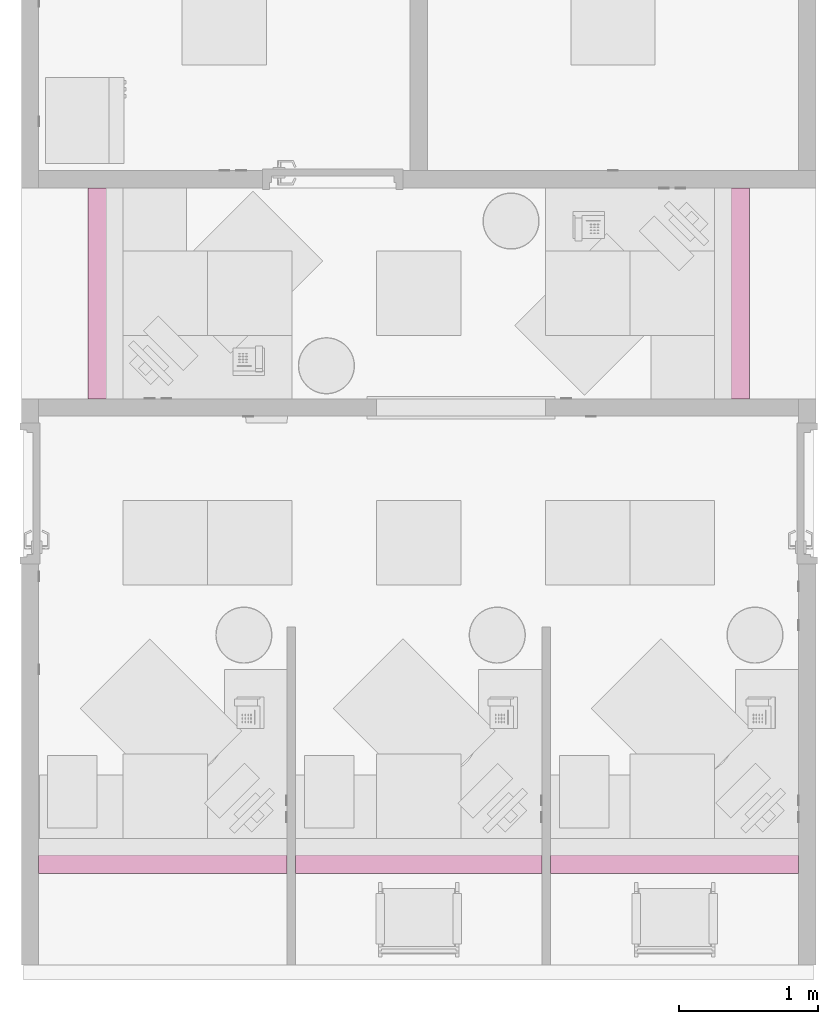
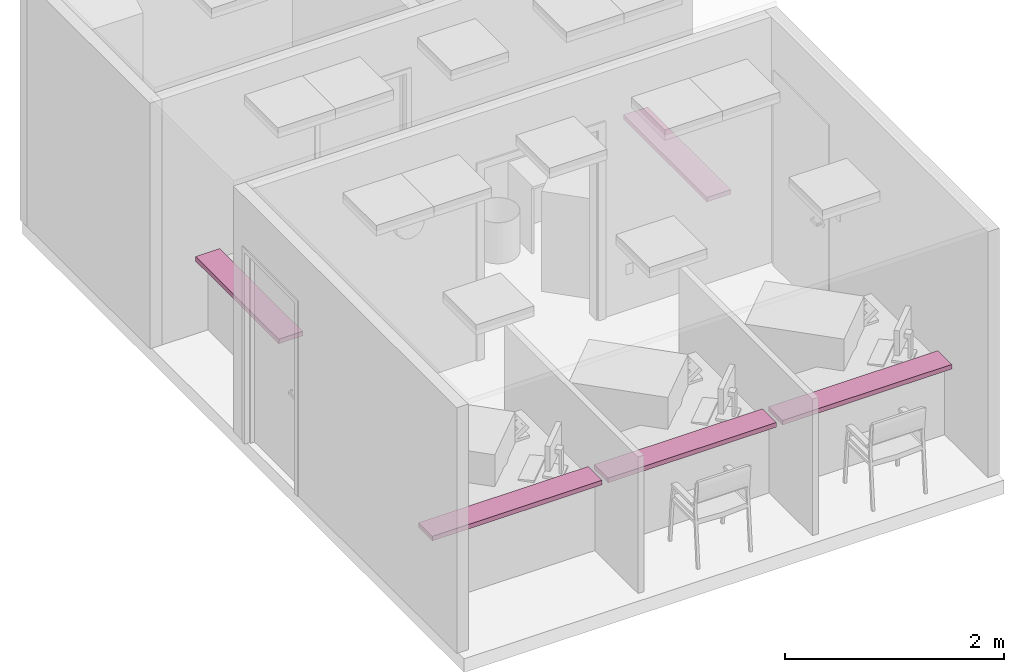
# One storey, part 7 of 20: 2 furnishings.
"""IFC2X3 building model written with IfcOpenShell, lengths in feet."""

import ifcopenshell
import ifcopenshell.guid

model = None  # the IFC model being written
_history = None  # IfcOwnerHistory: only IFC2X3 demands one
_inside = {}  # id of a spatial element -> (the spatial element, [elements in it])
_under = {}  # id of a project, library or spatial element -> (it, [spatial elements below it])
_declared = {}  # id of a project -> (the project, [libraries it declares])
_typed = {}  # id of a type object -> (the type object, [elements of that type])
_made_of = {}  # id of a material, layer set ... -> (it, [elements and type objects made of it])


def new_model(schema):
    """Start an empty IFC model of exactly this schema.

    Asked for "IFC4X3", IfcOpenShell would pick the latest addendum, in which some entities
    have other attributes; the version numbers below select the first issue.
    IFC2X3 requires an IfcOwnerHistory on every rooted entity: one is made here for all.
    """
    global model, _history
    if schema == "IFC4X3":
        model = ifcopenshell.file(schema_version=(4, 3, 0, 0))
    else:
        model = ifcopenshell.file(schema=schema)
    _inside.clear()
    _under.clear()
    _declared.clear()
    _typed.clear()
    _made_of.clear()
    _history = None
    if model.schema == "IFC2X3":
        org = make("IfcOrganization", Name="unknown")
        user = make(
            "IfcPersonAndOrganization",
            ThePerson=make("IfcPerson", FamilyName="unknown"),
            TheOrganization=org,
        )
        app = make(
            "IfcApplication",
            ApplicationDeveloper=org,
            Version="unknown",
            ApplicationFullName="unknown",
            ApplicationIdentifier="unknown",
        )
        _history = make(
            "IfcOwnerHistory",
            OwningUser=user,
            OwningApplication=app,
            ChangeAction="ADDED",
            CreationDate=0,
        )
    return model


def make(cls, **values):
    """One entity of the class cls with the attributes given. An attribute that is None is left unset."""
    return model.create_entity(
        cls, **{name: value for name, value in values.items() if value is not None}
    )


def entity(cls, *values):
    """Any entity or typed value of the class cls, its attributes in the order of the schema. None: left unset."""
    e = model.create_entity(cls)
    for i, value in enumerate(values):
        if value is not None:
            e[i] = value
    return e


def rooted(cls, **values):
    """An entity with a GlobalId (a new one), such as an element, a storey or a relation."""
    return make(cls, GlobalId=ifcopenshell.guid.new(), OwnerHistory=_history, **values)


def si_unit(unit_type, name, prefix=None):
    """IfcSIUnit, for example si_unit("LENGTHUNIT", "METRE", prefix="MILLI")."""
    return make("IfcSIUnit", UnitType=unit_type, Prefix=prefix, Name=name)


def converted_unit(unit_type, name, factor, base, dimensions=None, offset=None):
    """IfcConversionBasedUnit, such as the inch: factor (a typed value) times the base unit."""
    return make(
        "IfcConversionBasedUnit"
        if offset is None
        else "IfcConversionBasedUnitWithOffset",
        ConversionOffset=offset,
        Dimensions=None
        if dimensions is None
        else entity("IfcDimensionalExponents", *dimensions),
        UnitType=unit_type,
        Name=name,
        ConversionFactor=make(
            "IfcMeasureWithUnit", ValueComponent=factor, UnitComponent=base
        ),
    )


def derived_unit(unit_type, elements):
    """IfcDerivedUnit: a product of units, each with its exponent."""
    return make(
        "IfcDerivedUnit",
        Elements=[
            make("IfcDerivedUnitElement", Unit=unit, Exponent=power)
            for unit, power in elements
        ],
        UnitType=unit_type,
    )


def assignment(units):
    """IfcUnitAssignment: the units of a project."""
    return None if units is None else make("IfcUnitAssignment", Units=units)


def point(xyz):
    """IfcCartesianPoint."""
    return None if xyz is None else make("IfcCartesianPoint", Coordinates=xyz)


def direction(xyz):
    """IfcDirection."""
    return None if xyz is None else make("IfcDirection", DirectionRatios=xyz)


def frame(location, z_axis=None, x_axis=None):
    """IfcAxis2Placement3D, a coordinate frame: its origin and axes. An axis left out is left unset."""
    return make(
        "IfcAxis2Placement3D",
        Location=point(location),
        Axis=direction(z_axis),
        RefDirection=direction(x_axis),
    )


def frame_2d(location, x_axis=None):
    """IfcAxis2Placement2D, a coordinate frame in the plane: its origin and x axis."""
    return make(
        "IfcAxis2Placement2D", Location=point(location), RefDirection=direction(x_axis)
    )


def origin():
    """The frame at (0, 0, 0) with its axes left unset."""
    return frame((0.0, 0.0, 0.0))


def origin_2d_with_axis():
    """The frame at (0, 0) in the plane with the x axis (1, 0) written out."""
    return frame_2d((0.0, 0.0), x_axis=(1.0, 0.0))


def place(relative_to, where):
    """IfcLocalPlacement: puts the frame where relative to a parent placement (None: the world)."""
    return make(
        "IfcLocalPlacement", PlacementRelTo=relative_to, RelativePlacement=where
    )


def context(
    kind, dimensions, precision=None, world=None, true_north=None, identifier=None
):
    """IfcGeometricRepresentationContext, for example the 3D "Model" context."""
    return make(
        "IfcGeometricRepresentationContext",
        ContextIdentifier=identifier,
        ContextType=kind,
        CoordinateSpaceDimension=dimensions,
        Precision=precision,
        WorldCoordinateSystem=world,
        TrueNorth=true_north,
    )


def subcontext(parent, identifier, kind, view, scale=None):
    """IfcGeometricRepresentationSubContext, for example "Body" below "Model"."""
    return make(
        "IfcGeometricRepresentationSubContext",
        ContextIdentifier=identifier,
        ContextType=kind,
        ParentContext=parent,
        TargetScale=scale,
        TargetView=view,
    )


def project(units=None, contexts=None):
    """IfcProject with its units and contexts."""
    return rooted(
        "IfcProject",
        Name="project",
        RepresentationContexts=contexts,
        UnitsInContext=assignment(units),
    )


def spatial(cls, under=None, at=None, **own):
    """A site, building, storey or space (cls), placed at a placement, below another one or the project."""
    s = rooted(cls, ObjectPlacement=at, **own)
    if under is not None:
        _under.setdefault(under.id(), (under, []))[1].append(s)
    return s


def profile(cls, at=None, kind="AREA", **sizes):
    """A parametric profile (cls). Its sizes go by their IFC names, for example OverallWidth=200.0."""
    return make(cls, ProfileType=kind, Position=at, **sizes)


def rectangle(**sizes):
    """IfcRectangleProfileDef."""
    return profile("IfcRectangleProfileDef", **sizes)


def extrude(swept, where, along, depth):
    """IfcExtrudedAreaSolid: the profile swept, set in the frame where, extruded along a direction by depth."""
    return make(
        "IfcExtrudedAreaSolid",
        SweptArea=swept,
        Position=where,
        ExtrudedDirection=direction(along),
        Depth=depth,
    )


def shape(context_of_items, identifier, shape_type, items):
    """IfcShapeRepresentation: the items that make up one representation, for example the "Body"."""
    return make(
        "IfcShapeRepresentation",
        ContextOfItems=context_of_items,
        RepresentationIdentifier=identifier,
        RepresentationType=shape_type,
        Items=items,
    )


def source(mapping_origin, context_of_items, identifier, shape_type, items):
    """IfcRepresentationMap: a shape defined once, which mapped items show again and again."""
    return make(
        "IfcRepresentationMap",
        MappingOrigin=mapping_origin,
        MappedRepresentation=shape(context_of_items, identifier, shape_type, items),
    )


def transform(
    local_origin,
    x_axis=None,
    y_axis=None,
    z_axis=None,
    scale=None,
    scale2=None,
    scale3=None,
    uniform=True,
):
    """IfcCartesianTransformationOperator3D, or its non-uniform kind. x_axis, y_axis, z_axis: its Axis1, 2, 3."""
    if uniform:
        return make(
            "IfcCartesianTransformationOperator3D",
            Axis1=direction(x_axis),
            Axis2=direction(y_axis),
            LocalOrigin=point(local_origin),
            Scale=scale,
            Axis3=direction(z_axis),
        )
    return make(
        "IfcCartesianTransformationOperator3DnonUniform",
        Axis1=direction(x_axis),
        Axis2=direction(y_axis),
        LocalOrigin=point(local_origin),
        Scale=scale,
        Axis3=direction(z_axis),
        Scale2=scale2,
        Scale3=scale3,
    )


def mapped(mapping_source, mapping_target):
    """IfcMappedItem: shows the shape of a source again, moved by a transform."""
    return make(
        "IfcMappedItem", MappingSource=mapping_source, MappingTarget=mapping_target
    )


def made_of(thing, what):
    """Note that an element or type object is made of a material, layer set ...; save() writes the relation."""
    if what is not None:
        _made_of.setdefault(what.id(), (what, []))[1].append(thing)
    return thing


def type_object(cls, material=None, **own):
    """A type object (cls), such as IfcWallType, which elements share."""
    return made_of(rooted(cls, **own), material)


def type_shapes(of_type, sources):
    """Give a type object the sources (RepresentationMaps) that its elements show as mapped items."""
    of_type.RepresentationMaps = sources


def element(
    cls,
    number,
    at=None,
    inside=None,
    cuts=None,
    type_object=None,
    material=None,
    context=None,
    identifier="Body",
    shape_type=None,
    held_by="IfcProductDefinitionShape",
    body=None,
    shapes=None,
    **own,
):
    """One element of the class cls, such as IfcWall. Its Tag is "e" and its number.

    at: its placement. inside: the storey or other place that contains it. cuts: it is an
    opening in that element (IfcRelVoidsElement). A single representation is given by context,
    identifier, shape_type and body (its items); several are given by shapes. held_by: the class
    of the entity that holds the representations. save() writes the other relations.
    """
    e = rooted(cls, Tag="e%d" % number, ObjectPlacement=at, **own)
    if body is not None:
        shapes = [shape(context, identifier, shape_type, body)]
    if shapes is not None:
        e.Representation = make(held_by, Representations=shapes)
    if inside is not None:
        _inside.setdefault(inside.id(), (inside, []))[1].append(e)
    if cuts is not None:
        rooted(
            "IfcRelVoidsElement", RelatingBuildingElement=cuts, RelatedOpeningElement=e
        )
    if type_object is not None:
        _typed.setdefault(type_object.id(), (type_object, []))[1].append(e)
    return made_of(e, material)


def aggregate(whole, parts):
    """IfcRelAggregates: a whole, such as a stair, and the parts it consists of."""
    return rooted("IfcRelAggregates", RelatingObject=whole, RelatedObjects=parts)


def save(model, path):
    """Write the relations noted so far, then the file.

    IfcRelAggregates (storeys below a building ...), IfcRelContainedInSpatialStructure (elements
    in a storey), IfcRelDefinesByType, IfcRelAssociatesMaterial and IfcRelDeclares: one each for
    every whole, place, type object, material and project.
    """
    for whole, parts in _under.values():
        aggregate(whole, parts)
    for where, things in _inside.values():
        rooted(
            "IfcRelContainedInSpatialStructure",
            RelatedElements=things,
            RelatingStructure=where,
        )
    for kind, things in _typed.values():
        rooted("IfcRelDefinesByType", RelatedObjects=things, RelatingType=kind)
    for what, things in _made_of.values():
        rooted("IfcRelAssociatesMaterial", RelatedObjects=things, RelatingMaterial=what)
    for by, libraries in _declared.values():
        rooted("IfcRelDeclares", RelatingContext=by, RelatedDefinitions=libraries)
    model.write(path)


model = new_model("IFC2X3")

# Units and contexts
model_context = context("Model", 3, precision=0.0001, world=origin(), true_north=direction((6.12303176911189e-17, 1.0)))
body_context = subcontext(model_context, "Body", "Model", "MODEL_VIEW")
ifc_project = project(units=[converted_unit("LENGTHUNIT", "FOOT", entity("IfcRatioMeasure", 0.3048), si_unit("LENGTHUNIT", "METRE"), dimensions=[1, 0, 0, 0, 0, 0, 0]), converted_unit("AREAUNIT", "SQUARE FOOT", entity("IfcRatioMeasure", 0.09290304), si_unit("AREAUNIT", "SQUARE_METRE"), dimensions=[2, 0, 0, 0, 0, 0, 0]), converted_unit("VOLUMEUNIT", "CUBIC FOOT", entity("IfcRatioMeasure", 0.028316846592), si_unit("VOLUMEUNIT", "CUBIC_METRE"), dimensions=[3, 0, 0, 0, 0, 0, 0]), converted_unit("PLANEANGLEUNIT", "DEGREE", entity("IfcRatioMeasure", 0.0174532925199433), si_unit("PLANEANGLEUNIT", "RADIAN"), dimensions=[0, 0, 0, 0, 0, 0, 0]), si_unit("MASSUNIT", "GRAM", prefix="KILO"), derived_unit("MASSDENSITYUNIT", [(si_unit("MASSUNIT", "GRAM", prefix="KILO"), 1), (si_unit("LENGTHUNIT", "METRE"), -3)]), si_unit("TIMEUNIT", "SECOND"), si_unit("FREQUENCYUNIT", "HERTZ"), si_unit("THERMODYNAMICTEMPERATUREUNIT", "DEGREE_CELSIUS"), derived_unit("THERMALTRANSMITTANCEUNIT", [(si_unit("MASSUNIT", "GRAM", prefix="KILO"), 1), (si_unit("THERMODYNAMICTEMPERATUREUNIT", "KELVIN"), -1), (si_unit("TIMEUNIT", "SECOND"), -3)]), derived_unit("VOLUMETRICFLOWRATEUNIT", [(si_unit("LENGTHUNIT", "METRE"), 3), (si_unit("TIMEUNIT", "SECOND"), -1)]), si_unit("ELECTRICCURRENTUNIT", "AMPERE"), si_unit("ELECTRICVOLTAGEUNIT", "VOLT"), si_unit("POWERUNIT", "WATT"), si_unit("FORCEUNIT", "NEWTON"), si_unit("ILLUMINANCEUNIT", "LUX"), si_unit("LUMINOUSFLUXUNIT", "LUMEN"), si_unit("LUMINOUSINTENSITYUNIT", "CANDELA"), derived_unit("USERDEFINED", [(si_unit("MASSUNIT", "GRAM", prefix="KILO"), -1), (si_unit("LENGTHUNIT", "METRE"), -2), (si_unit("TIMEUNIT", "SECOND"), 3), (si_unit("LUMINOUSFLUXUNIT", "LUMEN"), 1)]), derived_unit("LINEARVELOCITYUNIT", [(si_unit("LENGTHUNIT", "METRE"), 1), (si_unit("TIMEUNIT", "SECOND"), -1)]), si_unit("PRESSUREUNIT", "PASCAL"), derived_unit("USERDEFINED", [(si_unit("LENGTHUNIT", "METRE"), -2), (si_unit("MASSUNIT", "GRAM", prefix="KILO"), 1), (si_unit("TIMEUNIT", "SECOND"), -2)])], contexts=[model_context])

# Site, building, storey, space
site_placement = place(None, origin())
site = spatial("IfcSite", under=ifc_project, at=site_placement, Name="Default", CompositionType="ELEMENT")
building_placement = place(site_placement, origin())
building = spatial("IfcBuilding", under=site, at=building_placement, Name="OUTPATIENT / PACT CLINIC (Ch. 265)", CompositionType="ELEMENT")
storey_placement = place(building_placement, origin())
storey = spatial("IfcBuildingStorey", under=building, at=storey_placement, Name="DATUM", CompositionType="ELEMENT", Elevation=0.0)
space_placement = place(storey_placement, origin())
space = spatial("IfcSpace", under=storey, at=space_placement, Name="RCP03", CompositionType="ELEMENT", InteriorOrExteriorSpace="INTERNAL")

# Furnishings
furniture_type_1 = type_object("IfcFurnitureType", Name="Transaction Counter", AssemblyPlace="NOTDEFINED")
shared_shape_1 = source(origin(), body_context, "Body", "SweptSolid", [
    extrude(rectangle(XDim=0.833333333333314, YDim=5.0, at=frame_2d((7.105427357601e-15, 0.0), x_axis=(1.0, 0.0))), frame((72.6807800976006, -852.018589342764, 2.66666666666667), z_axis=(0.0, 0.0, 1.0), x_axis=(-1.0, 0.0, 0.0)), (0.0, 0.0, 1.0), 0.166666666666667),
    extrude(rectangle(XDim=0.833333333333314, YDim=5.0, at=origin_2d_with_axis()), frame((57.8474467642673, -852.018589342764, 2.66666666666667), z_axis=(0.0, 0.0, 1.0), x_axis=(-1.0, 0.0, 0.0)), (0.0, 0.0, 1.0), 0.166666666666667),
    extrude(rectangle(XDim=0.833333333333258, YDim=5.83333333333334, at=frame_2d((1.13686837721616e-13, 3.5527136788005e-15), x_axis=(1.0, 0.0))), frame((65.2641134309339, -865.34150600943, 2.66666666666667), z_axis=(0.0, 0.0, 1.0), x_axis=(0.0, -1.0, 0.0)), (0.0, 0.0, 1.0), 0.166666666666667),
    extrude(rectangle(XDim=0.833333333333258, YDim=5.875, at=frame_2d((1.13686837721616e-13, 0.0), x_axis=(1.0, 0.0))), frame((71.3266134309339, -865.34150600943, 2.66666666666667), z_axis=(0.0, 0.0, 1.0), x_axis=(0.0, -1.0, 0.0)), (0.0, 0.0, 1.0), 0.166666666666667),
])
type_shapes(furniture_type_1, [shared_shape_1])
furnishing_1_placement = place(space_placement, origin())
element("IfcFurnishingElement", 1, at=furnishing_1_placement, inside=space, type_object=furniture_type_1, Name="Transaction Counter:Transaction Counter", ObjectType="Transaction Counter", context=body_context, shape_type="MappedRepresentation", body=[
    mapped(shared_shape_1, transform((0.0, 0.0, 0.0), scale=1.0)),
])
furniture_type_2 = type_object("IfcFurnitureType", Name="Transaction Counter", AssemblyPlace="NOTDEFINED")
shared_shape_2 = source(origin(), body_context, "Body", "SweptSolid", [
    extrude(rectangle(XDim=0.833333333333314, YDim=5.0, at=frame_2d((7.105427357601e-15, 0.0), x_axis=(1.0, 0.0))), frame((72.6807800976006, -852.018589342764, 2.66666666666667), z_axis=(0.0, 0.0, 1.0), x_axis=(-1.0, 0.0, 0.0)), (0.0, 0.0, 1.0), 0.166666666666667),
    extrude(rectangle(XDim=0.833333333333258, YDim=5.875, at=frame_2d((1.13686837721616e-13, 0.0), x_axis=(1.0, 0.0))), frame((59.2016134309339, -865.34150600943, 2.66666666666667), z_axis=(0.0, 0.0, 1.0), x_axis=(0.0, -1.0, 0.0)), (0.0, 0.0, 1.0), 0.166666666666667),
    extrude(rectangle(XDim=0.833333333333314, YDim=5.0, at=origin_2d_with_axis()), frame((57.8474467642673, -852.018589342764, 2.66666666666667), z_axis=(0.0, 0.0, 1.0), x_axis=(-1.0, 0.0, 0.0)), (0.0, 0.0, 1.0), 0.166666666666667),
])
type_shapes(furniture_type_2, [shared_shape_2])
furnishing_2_placement = place(space_placement, origin())
element("IfcFurnishingElement", 2, at=furnishing_2_placement, inside=space, type_object=furniture_type_2, Name="Transaction Counter1:Transaction Counter", ObjectType="Transaction Counter", context=body_context, shape_type="MappedRepresentation", body=[
    mapped(shared_shape_2, transform((0.0, 0.0, 0.0), scale=1.0)),
])

save(model, "model.ifc")
